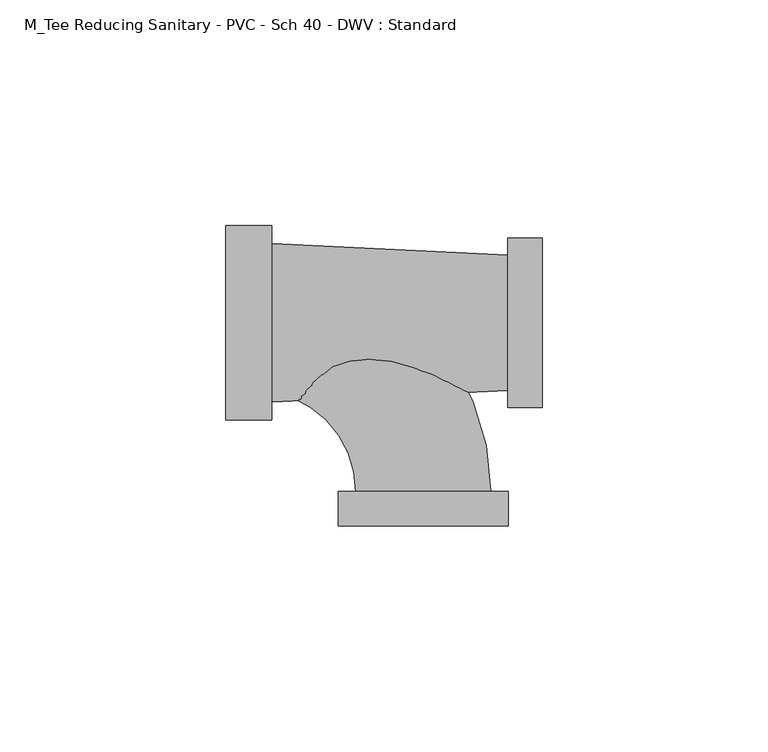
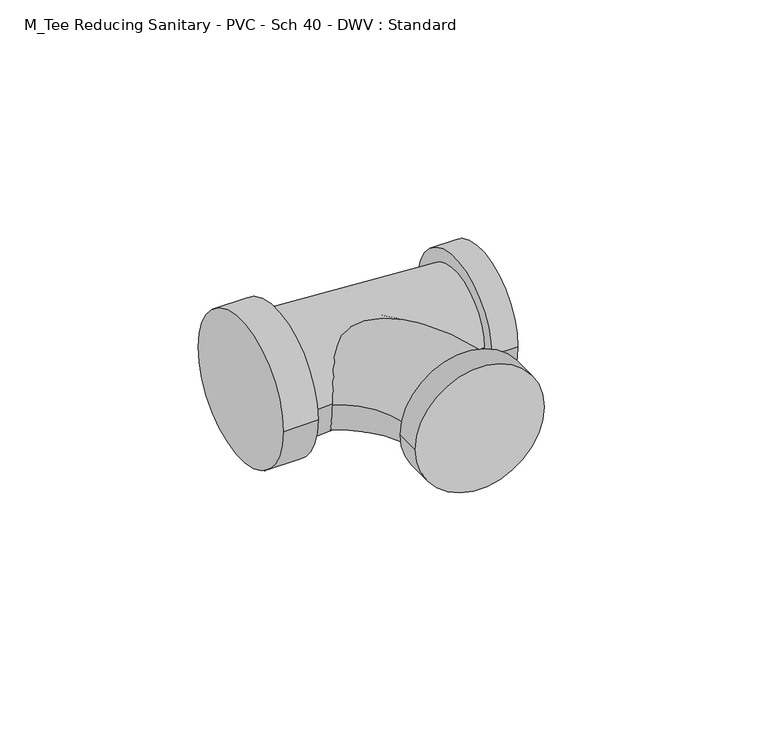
"""IFC4 building model written with IfcOpenShell, lengths in millimetres: pipe fitting geometry, M_Tee Reducing Sanitary - PVC - Sch 40 - DWV : Standard."""

from ifc_helpers import new_model, si_unit, point, frame, origin, place, context, project, spatial, polyline, circle_curve, ellipse_curve, trimmed, source, transform, mapped, element, save
from ifc_brep_helpers import plane_surface, cylinder_surface, revolved_surface, advanced_brep


def m_tee_reducing_sanitary_pvc_sch_40_dwv_standard_1dbb164d(model_context):
    return source(origin(), model_context, "Body", "AdvancedBrep", [
        advanced_brep(
        [(18.651625, -18.7871094, 0.0), (18.651625, 18.7871094, 0.0), (18.651625, -14.9640625, 0.0), (18.651625, 14.9640625, 0.0), (26.2719375, -18.7871094, 0.0), (26.2719375, 18.7871094, 0.0), (-33.5304062, 17.5640625, 0.0), (-33.5304062, -17.5640625, 0.0), (-43.7007187, -21.4871094, 0.0), (-43.7007187, 21.4871094, 0.0), (-33.5304062, -21.4871094, 0.0), (-33.5304062, 21.4871094, 0.0)],
        [
            (0, 1, circle_curve(frame((18.651625, 0.0, 0.0), z_axis=(-1.0, 0.0, 0.0), x_axis=(0.0, 1.0, 0.0)), 18.7871094)),
            (1, 0, circle_curve(frame((18.651625, 0.0, 0.0), z_axis=(-1.0, 0.0, 0.0), x_axis=(0.0, 1.0, 0.0)), 18.7871094)),
            (2, 3, circle_curve(frame((18.651625, 0.0, 0.0), z_axis=(1.0, 0.0, 0.0), x_axis=(0.0, -1.0, 0.0)), 14.9640625)),
            (3, 2, circle_curve(frame((18.651625, 0.0, 0.0), z_axis=(1.0, 0.0, 0.0), x_axis=(0.0, 1.0, 0.0)), 14.9640625)),
            (4, 5, circle_curve(frame((26.2719375, 0.0, 0.0), z_axis=(1.0, 0.0, 0.0), x_axis=(0.0, 1.0, 0.0)), 18.7871094)),
            (5, 4, circle_curve(frame((26.2719375, 0.0, 0.0), z_axis=(1.0, 0.0, 0.0), x_axis=(0.0, 1.0, 0.0)), 18.7871094)),
            (0, 4),
            (5, 1),
            (6, 3),
            (2, 7),
            (7, 6, circle_curve(frame((-33.5304062, 0.0, 0.0), z_axis=(1.0, 0.0, 0.0), x_axis=(0.0, -1.0, 0.0)), 17.5640625)),
            (6, 7, circle_curve(frame((-33.5304062, 0.0, 0.0), z_axis=(1.0, 0.0, 0.0), x_axis=(0.0, 1.0, 0.0)), 17.5640625)),
            (8, 9, circle_curve(frame((-43.7007187, 0.0, 0.0), z_axis=(-1.0, 0.0, 0.0), x_axis=(0.0, 1.0, 0.0)), 21.4871094)),
            (9, 8, circle_curve(frame((-43.7007187, 0.0, 0.0), z_axis=(-1.0, 0.0, 0.0), x_axis=(0.0, 1.0, 0.0)), 21.4871094)),
            (10, 11, circle_curve(frame((-33.5304062, 0.0, 0.0), z_axis=(1.0, 0.0, 0.0), x_axis=(0.0, 1.0, 0.0)), 21.4871094)),
            (11, 10, circle_curve(frame((-33.5304062, 0.0, 0.0), z_axis=(1.0, 0.0, 0.0), x_axis=(0.0, 1.0, 0.0)), 21.4871094)),
            (8, 10),
            (11, 9),
        ],
        [
            plane_surface(frame((18.651625, 0.0, 0.0), z_axis=(-1.0, 0.0, 0.0), x_axis=(0.0, 0.0, 1.0))),
            plane_surface(frame((26.2719375, 0.0, 0.0), z_axis=(1.0, 0.0, 0.0), x_axis=(0.0, 0.0, 1.0))),
            cylinder_surface(frame((18.651625, 0.0, 0.0), z_axis=(-1.0, 0.0, 0.0), x_axis=(0.0, 1.0, 0.0)), 18.7871094),
            revolved_surface(polyline([(18.651625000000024, 14.964062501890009, 0.0), (-33.530406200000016, 17.5640625, 0.0)]), (318.9805392, 0.0, 0.0), (-1.0, 0.0, 0.0)),
            plane_surface(frame((-43.7007187, 0.0, 0.0), z_axis=(-1.0, 0.0, 0.0), x_axis=(0.0, 0.0, 1.0))),
            plane_surface(frame((-33.5304062, 0.0, 0.0), z_axis=(1.0, 0.0, 0.0), x_axis=(0.0, 0.0, 1.0))),
            cylinder_surface(frame((-43.7007187, 0.0, 0.0), z_axis=(-1.0, 0.0, 0.0), x_axis=(0.0, 1.0, 0.0)), 21.4871094),
        ],
        [
            (0, [[1, 2], [3, 4]]),
            (1, [[5, 6]]),
            (2, [[-1, 7, -6, 8]]),
            (2, [[-2, -8, -5, -7]]),
            (3, [[9, -3, 10, 11]]),
            (3, [[-9, 12, -10, -4]]),
            (4, [[13, 14]]),
            (5, [[15, 16], [-11, -12]]),
            (6, [[-13, 17, -16, 18]]),
            (6, [[-14, -18, -15, -17]]),
        ],
    ),
        advanced_brep(
        [(-18.7871094, -37.3976563, 0.0), (18.7871094, -37.3976563, 0.0), (14.9640625, -37.3976563, 0.0), (-14.9640625, -37.3976563, 0.0), (-18.7871094, -45.0179688, 0.0), (18.7871094, -45.0179688, 0.0), (-37.3976562, -14.9640625, 0.0), (-37.3976562, 14.9640625, 0.0)],
        [
            (0, 1, circle_curve(frame((0.0, -37.3976563, 0.0), z_axis=(0.0, 1.0, 0.0), x_axis=(1.0, 0.0, 0.0)), 18.7871094)),
            (1, 0, circle_curve(frame((0.0, -37.3976563, 0.0), z_axis=(0.0, 1.0, 0.0), x_axis=(1.0, 0.0, 0.0)), 18.7871094)),
            (2, 3, circle_curve(frame((0.0, -37.3976563, 0.0), z_axis=(0.0, -1.0, 0.0), x_axis=(1.0, 0.0, 0.0)), 14.9640625)),
            (3, 2, circle_curve(frame((0.0, -37.3976563, 0.0), z_axis=(0.0, -1.0, 0.0), x_axis=(1.0, 0.0, 0.0)), 14.9640625)),
            (4, 5, circle_curve(frame((0.0, -45.0179688, 0.0), z_axis=(0.0, -1.0, 0.0), x_axis=(1.0, 0.0, 0.0)), 18.7871094)),
            (5, 4, circle_curve(frame((0.0, -45.0179688, 0.0), z_axis=(0.0, -1.0, 0.0), x_axis=(1.0, 0.0, 0.0)), 18.7871094)),
            (0, 4),
            (5, 1),
            (6, 7, circle_curve(frame((-37.3976562, 0.0, 0.0), z_axis=(-1.0, 0.0, 0.0), x_axis=(0.0, 1.0, 0.0)), 14.9640625)),
            (7, 6, circle_curve(frame((-37.3976562, 0.0, 0.0), z_axis=(-1.0, 0.0, 0.0), x_axis=(0.0, 1.0, 0.0)), 14.9640625)),
            (6, 3, circle_curve(frame((-37.3976562, -37.3976563, 0.0), z_axis=(0.0, 0.0, -1.0), x_axis=(0.0, 1.0, 0.0)), 22.4335938)),
            (2, 7, circle_curve(frame((-37.3976562, -37.3976563, 0.0), z_axis=(0.0, 0.0, 1.0), x_axis=(0.0, 1.0, 0.0)), 52.3617188)),
        ],
        [
            plane_surface(frame((0.0, -37.3976563, 0.0), z_axis=(0.0, 1.0, 0.0), x_axis=(0.0, 0.0, 1.0))),
            plane_surface(frame((0.0, -45.0179688, 0.0), z_axis=(0.0, -1.0, 0.0), x_axis=(0.0, 0.0, 1.0))),
            cylinder_surface(frame((0.0, -37.3976563, 0.0), z_axis=(0.0, 1.0, 0.0), x_axis=(1.0, 0.0, 0.0)), 18.7871094),
            plane_surface(frame((-37.3976562, 0.0, 0.0), z_axis=(-1.0, 0.0, 0.0), x_axis=(0.0, 0.0, 1.0))),
            revolved_surface(trimmed(ellipse_curve(frame((-37.3976562, 0.0, 0.0), z_axis=(-1.0, 0.0, 0.0), x_axis=(0.0, 1.0, 0.0)), 14.9640625, 14.9640625), [point((-37.3976562, -14.9640625, 0.0))], [point((-37.3976562, 14.9640625, 0.0))], True, "CARTESIAN"), (-37.3976562, -37.3976563, 0.0), (0.0, 0.0, -1.0)),
            revolved_surface(trimmed(ellipse_curve(frame((-37.3976562, 0.0, 0.0), z_axis=(-1.0, 0.0, 0.0), x_axis=(0.0, 1.0, 0.0)), 14.9640625, 14.9640625), [point((-37.3976562, 14.9640625, 0.0))], [point((-37.3976562, -14.9640625, 0.0))], True, "CARTESIAN"), (-37.3976562, -37.3976563, 0.0), (0.0, 0.0, -1.0)),
        ],
        [
            (0, [[1, 2], [3, 4]]),
            (1, [[5, 6]]),
            (2, [[-1, 7, -6, 8]]),
            (2, [[-2, -8, -5, -7]]),
            (3, [[9, 10]]),
            (4, [[-9, 11, -3, 12]]),
            (5, [[-10, -12, -4, -11]]),
        ],
    ),
    ])


if __name__ == "__main__":
    model = new_model("IFC4")
    model_context = context("Model", 3, world=origin())
    ifc_project = project(units=[si_unit("LENGTHUNIT", "METRE", prefix="MILLI")], contexts=[model_context])
    site = spatial("IfcSite", under=ifc_project)
    building = spatial("IfcBuilding", under=site)
    placement = place(None, origin())
    m_tee_reducing_sanitary_pvc_sch_40_dwv_standard_shape = m_tee_reducing_sanitary_pvc_sch_40_dwv_standard_1dbb164d(model_context)
    element("IfcPipeFitting", 1, ObjectType="M_Tee Reducing Sanitary - PVC - Sch 40 - DWV : Standard", at=placement, inside=building, context=model_context, shape_type="MappedRepresentation", body=[
        mapped(m_tee_reducing_sanitary_pvc_sch_40_dwv_standard_shape, transform((0.0, 0.0, 0.0), x_axis=(1.0, 0.0, 0.0), y_axis=(0.0, 1.0, 0.0), z_axis=(0.0, 0.0, 1.0))),
    ])
    save(model, "model.ifc")
